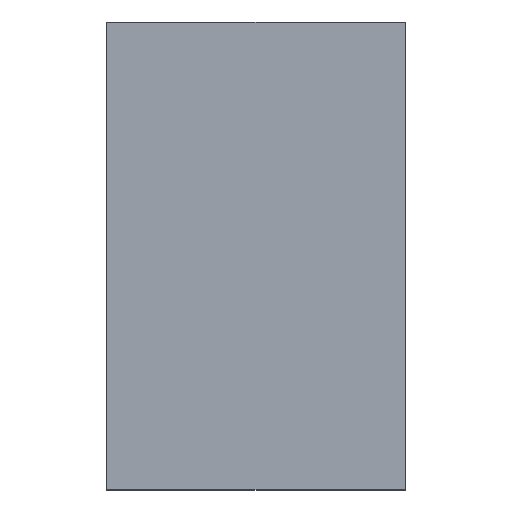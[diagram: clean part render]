
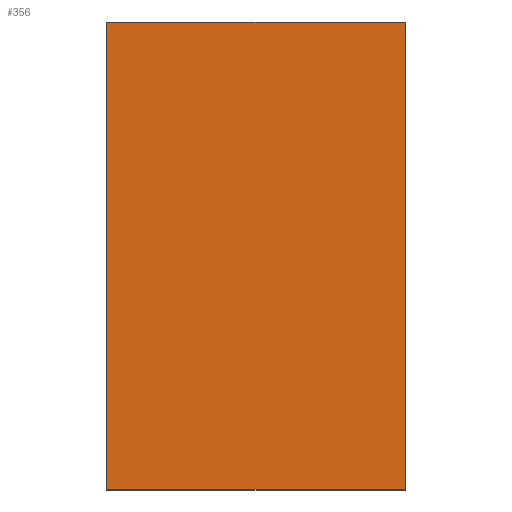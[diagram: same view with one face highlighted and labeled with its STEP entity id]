
A CAD part, top view. The second image highlights one B-rep face of the part: STEP entity #356.
In plain terms, the highlighted planar face has unit normal (0, 0, 1).
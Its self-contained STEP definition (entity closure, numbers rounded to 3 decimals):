
#42 = VERTEX_POINT('',#43);
#43 = CARTESIAN_POINT('',(-23.,-36.,5.5));
#50 = PLANE('',#51);
#51 = AXIS2_PLACEMENT_3D('',#52,#53,#54);
#52 = CARTESIAN_POINT('',(-23.,-36.,-5.5));
#53 = DIRECTION('',(1.,0.,-0.));
#54 = DIRECTION('',(0.,0.,1.));
#62 = PLANE('',#63);
#63 = AXIS2_PLACEMENT_3D('',#64,#65,#66);
#64 = CARTESIAN_POINT('',(-23.,-36.,-5.5));
#65 = DIRECTION('',(-0.,1.,0.));
#66 = DIRECTION('',(0.,0.,1.));
#103 = VERTEX_POINT('',#104);
#104 = CARTESIAN_POINT('',(-23.,36.,5.5));
#118 = PLANE('',#119);
#119 = AXIS2_PLACEMENT_3D('',#120,#121,#122);
#120 = CARTESIAN_POINT('',(-23.,36.,-5.5));
#121 = DIRECTION('',(-0.,1.,0.));
#122 = DIRECTION('',(0.,0.,1.));
#130 = EDGE_CURVE('',#42,#103,#131,.T.);
#131 = SURFACE_CURVE('',#132,(#136,#143),.PCURVE_S1.);
#132 = LINE('',#133,#134);
#133 = CARTESIAN_POINT('',(-23.,-36.,5.5));
#134 = VECTOR('',#135,1.);
#135 = DIRECTION('',(-0.,1.,0.));
#136 = PCURVE('',#50,#137);
#137 = DEFINITIONAL_REPRESENTATION('',(#138),#142);
#138 = LINE('',#139,#140);
#139 = CARTESIAN_POINT('',(11.,0.));
#140 = VECTOR('',#141,1.);
#141 = DIRECTION('',(0.,-1.));
#142 = ( GEOMETRIC_REPRESENTATION_CONTEXT(2) 
PARAMETRIC_REPRESENTATION_CONTEXT() REPRESENTATION_CONTEXT('2D SPACE',''
  ) );
#143 = PCURVE('',#144,#149);
#144 = PLANE('',#145);
#145 = AXIS2_PLACEMENT_3D('',#146,#147,#148);
#146 = CARTESIAN_POINT('',(-23.,-36.,5.5));
#147 = DIRECTION('',(0.,0.,1.));
#148 = DIRECTION('',(1.,0.,-0.));
#149 = DEFINITIONAL_REPRESENTATION('',(#150),#154);
#150 = LINE('',#151,#152);
#151 = CARTESIAN_POINT('',(0.,0.));
#152 = VECTOR('',#153,1.);
#153 = DIRECTION('',(0.,1.));
#154 = ( GEOMETRIC_REPRESENTATION_CONTEXT(2) 
PARAMETRIC_REPRESENTATION_CONTEXT() REPRESENTATION_CONTEXT('2D SPACE',''
  ) );
#162 = VERTEX_POINT('',#163);
#163 = CARTESIAN_POINT('',(23.,-36.,5.5));
#170 = PLANE('',#171);
#171 = AXIS2_PLACEMENT_3D('',#172,#173,#174);
#172 = CARTESIAN_POINT('',(23.,-36.,-5.5));
#173 = DIRECTION('',(1.,0.,-0.));
#174 = DIRECTION('',(0.,0.,1.));
#213 = VERTEX_POINT('',#214);
#214 = CARTESIAN_POINT('',(23.,36.,5.5));
#235 = EDGE_CURVE('',#162,#213,#236,.T.);
#236 = SURFACE_CURVE('',#237,(#241,#248),.PCURVE_S1.);
#237 = LINE('',#238,#239);
#238 = CARTESIAN_POINT('',(23.,-36.,5.5));
#239 = VECTOR('',#240,1.);
#240 = DIRECTION('',(-0.,1.,0.));
#241 = PCURVE('',#170,#242);
#242 = DEFINITIONAL_REPRESENTATION('',(#243),#247);
#243 = LINE('',#244,#245);
#244 = CARTESIAN_POINT('',(11.,0.));
#245 = VECTOR('',#246,1.);
#246 = DIRECTION('',(0.,-1.));
#247 = ( GEOMETRIC_REPRESENTATION_CONTEXT(2) 
PARAMETRIC_REPRESENTATION_CONTEXT() REPRESENTATION_CONTEXT('2D SPACE',''
  ) );
#248 = PCURVE('',#144,#249);
#249 = DEFINITIONAL_REPRESENTATION('',(#250),#254);
#250 = LINE('',#251,#252);
#251 = CARTESIAN_POINT('',(46.,0.));
#252 = VECTOR('',#253,1.);
#253 = DIRECTION('',(0.,1.));
#254 = ( GEOMETRIC_REPRESENTATION_CONTEXT(2) 
PARAMETRIC_REPRESENTATION_CONTEXT() REPRESENTATION_CONTEXT('2D SPACE',''
  ) );
#281 = EDGE_CURVE('',#42,#162,#282,.T.);
#282 = SURFACE_CURVE('',#283,(#287,#294),.PCURVE_S1.);
#283 = LINE('',#284,#285);
#284 = CARTESIAN_POINT('',(-23.,-36.,5.5));
#285 = VECTOR('',#286,1.);
#286 = DIRECTION('',(1.,0.,-0.));
#287 = PCURVE('',#62,#288);
#288 = DEFINITIONAL_REPRESENTATION('',(#289),#293);
#289 = LINE('',#290,#291);
#290 = CARTESIAN_POINT('',(11.,0.));
#291 = VECTOR('',#292,1.);
#292 = DIRECTION('',(0.,1.));
#293 = ( GEOMETRIC_REPRESENTATION_CONTEXT(2) 
PARAMETRIC_REPRESENTATION_CONTEXT() REPRESENTATION_CONTEXT('2D SPACE',''
  ) );
#294 = PCURVE('',#144,#295);
#295 = DEFINITIONAL_REPRESENTATION('',(#296),#300);
#296 = LINE('',#297,#298);
#297 = CARTESIAN_POINT('',(0.,0.));
#298 = VECTOR('',#299,1.);
#299 = DIRECTION('',(1.,0.));
#300 = ( GEOMETRIC_REPRESENTATION_CONTEXT(2) 
PARAMETRIC_REPRESENTATION_CONTEXT() REPRESENTATION_CONTEXT('2D SPACE',''
  ) );
#328 = EDGE_CURVE('',#103,#213,#329,.T.);
#329 = SURFACE_CURVE('',#330,(#334,#341),.PCURVE_S1.);
#330 = LINE('',#331,#332);
#331 = CARTESIAN_POINT('',(-23.,36.,5.5));
#332 = VECTOR('',#333,1.);
#333 = DIRECTION('',(1.,0.,-0.));
#334 = PCURVE('',#118,#335);
#335 = DEFINITIONAL_REPRESENTATION('',(#336),#340);
#336 = LINE('',#337,#338);
#337 = CARTESIAN_POINT('',(11.,0.));
#338 = VECTOR('',#339,1.);
#339 = DIRECTION('',(0.,1.));
#340 = ( GEOMETRIC_REPRESENTATION_CONTEXT(2) 
PARAMETRIC_REPRESENTATION_CONTEXT() REPRESENTATION_CONTEXT('2D SPACE',''
  ) );
#341 = PCURVE('',#144,#342);
#342 = DEFINITIONAL_REPRESENTATION('',(#343),#347);
#343 = LINE('',#344,#345);
#344 = CARTESIAN_POINT('',(0.,72.));
#345 = VECTOR('',#346,1.);
#346 = DIRECTION('',(1.,0.));
#347 = ( GEOMETRIC_REPRESENTATION_CONTEXT(2) 
PARAMETRIC_REPRESENTATION_CONTEXT() REPRESENTATION_CONTEXT('2D SPACE',''
  ) );
#356 = ADVANCED_FACE('',(#357),#144,.T.);
#357 = FACE_BOUND('',#358,.T.);
#358 = EDGE_LOOP('',(#359,#360,#361,#362));
#359 = ORIENTED_EDGE('',*,*,#130,.F.);
#360 = ORIENTED_EDGE('',*,*,#281,.T.);
#361 = ORIENTED_EDGE('',*,*,#235,.T.);
#362 = ORIENTED_EDGE('',*,*,#328,.F.);
